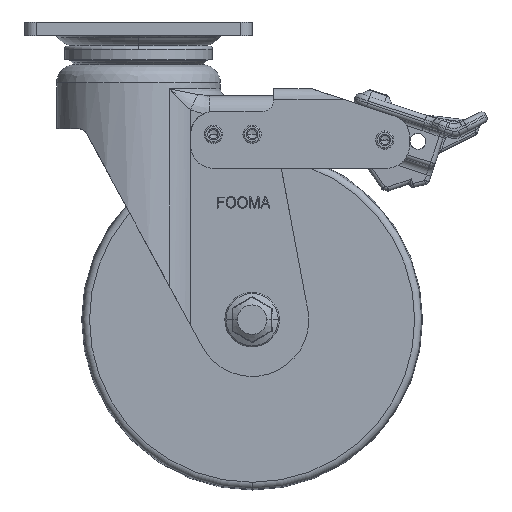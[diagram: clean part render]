
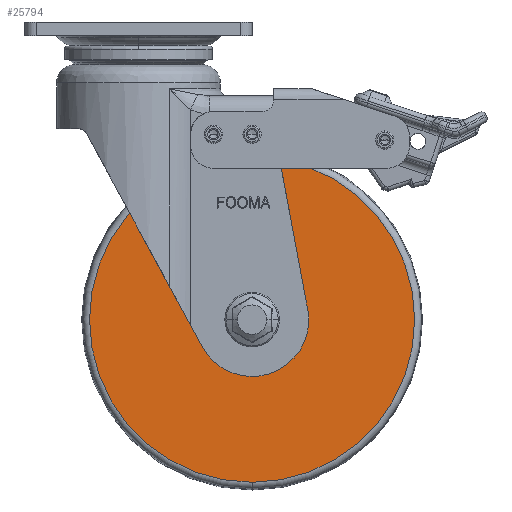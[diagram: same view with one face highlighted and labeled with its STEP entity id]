
A CAD part, front view. The second image highlights one B-rep face of the part: STEP entity #25794.
In plain terms, the highlighted planar face has unit normal (0, -1, 0) as drawn and (0, 0, 1) by its records, which use the part's own axes.
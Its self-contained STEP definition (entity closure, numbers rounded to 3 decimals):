
#3368=CARTESIAN_POINT('',(101.278,62.061,4.));
#3369=VERTEX_POINT('',#3368);
#3378=CARTESIAN_POINT('',(101.278,-81.051,4.));
#3379=VERTEX_POINT('',#3378);
#3387=CARTESIAN_POINT('',(101.278,-9.495,4.));
#3388=DIRECTION('',(0.0,0.0,-1.0));
#3389=DIRECTION('',(0.0,1.0,0.0));
#3390=AXIS2_PLACEMENT_3D('',#3387,#3388,#3389);
#3391=CIRCLE('',#3390,71.556);
#3392=EDGE_CURVE('',#3379,#3369,#3391,.T.);
#3436=CARTESIAN_POINT('',(101.278,0.505,4.));
#3437=VERTEX_POINT('',#3436);
#3446=CARTESIAN_POINT('',(101.278,-19.495,4.));
#3447=VERTEX_POINT('',#3446);
#3448=CARTESIAN_POINT('',(101.278,-9.495,4.));
#3449=DIRECTION('',(0.0,0.0,-1.0));
#3450=DIRECTION('',(0.0,1.0,0.0));
#3451=AXIS2_PLACEMENT_3D('',#3448,#3449,#3450);
#3452=CIRCLE('',#3451,10.);
#3453=EDGE_CURVE('',#3447,#3437,#3452,.T.);
#25727=CARTESIAN_POINT('',(101.278,-9.495,4.));
#25728=DIRECTION('',(0.0,0.0,-1.0));
#25729=DIRECTION('',(0.0,1.0,0.0));
#25730=AXIS2_PLACEMENT_3D('',#25727,#25728,#25729);
#25731=CIRCLE('',#25730,10.);
#25732=EDGE_CURVE('',#3437,#3447,#25731,.T.);
#25775=CARTESIAN_POINT('',(101.278,31.283,4.));
#25776=DIRECTION('',(0.0,0.0,1.0));
#25777=DIRECTION('',(0.0,-1.0,0.0));
#25778=AXIS2_PLACEMENT_3D('',#25775,#25776,#25777);
#25779=PLANE('',#25778);
#25780=CARTESIAN_POINT('',(101.278,-9.495,4.));
#25781=DIRECTION('',(0.0,0.0,-1.0));
#25782=DIRECTION('',(0.0,1.0,0.0));
#25783=AXIS2_PLACEMENT_3D('',#25780,#25781,#25782);
#25784=CIRCLE('',#25783,71.556);
#25785=EDGE_CURVE('',#3369,#3379,#25784,.T.);
#25786=ORIENTED_EDGE('',*,*,#25785,.F.);
#25787=ORIENTED_EDGE('',*,*,#3392,.F.);
#25788=EDGE_LOOP('',(#25786,#25787));
#25789=FACE_OUTER_BOUND('',#25788,.T.);
#25790=ORIENTED_EDGE('',*,*,#25732,.T.);
#25791=ORIENTED_EDGE('',*,*,#3453,.T.);
#25792=EDGE_LOOP('',(#25790,#25791));
#25793=FACE_BOUND('',#25792,.T.);
#25794=ADVANCED_FACE('',(#25789,#25793),#25779,.T.);
